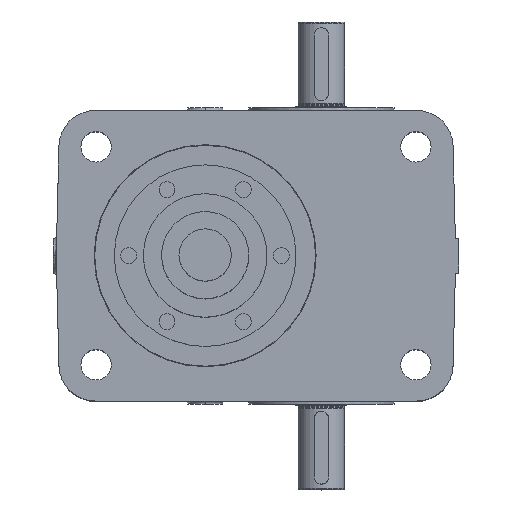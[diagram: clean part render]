
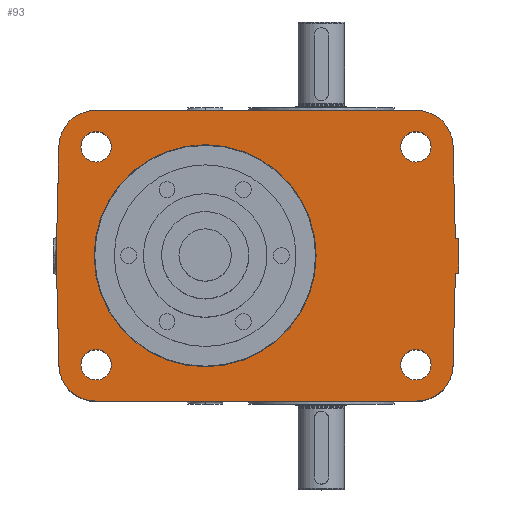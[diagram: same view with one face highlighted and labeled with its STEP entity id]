
A CAD part, top view. The second image highlights one B-rep face of the part: STEP entity #93.
In plain terms, the highlighted planar face has unit normal (0, 0, 1).
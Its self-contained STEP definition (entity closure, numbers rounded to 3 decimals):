
#93=ADVANCED_FACE('',(#508,#509,#510,#511,#512,#513),#514,.T.);
#508=FACE_OUTER_BOUND('',#1719,.T.);
#509=FACE_BOUND('',#1720,.T.);
#510=FACE_BOUND('',#1721,.T.);
#511=FACE_BOUND('',#1722,.T.);
#512=FACE_BOUND('',#1723,.T.);
#513=FACE_BOUND('',#1724,.T.);
#514=PLANE('',#1725);
#1719=EDGE_LOOP('',(#4758,#4759,#4760,#4761,#4762,#4763,#4764,#4765,#4766,#4767,#4768,#4769,#4770));
#1720=EDGE_LOOP('',(#4771,#4772));
#1721=EDGE_LOOP('',(#4773,#4774));
#1722=EDGE_LOOP('',(#4775,#4776));
#1723=EDGE_LOOP('',(#4777,#4778));
#1724=EDGE_LOOP('',(#4779,#4780));
#1725=AXIS2_PLACEMENT_3D('',#4781,#4782,#4783);
#4758=ORIENTED_EDGE('',*,*,#7506,.F.);
#4759=ORIENTED_EDGE('',*,*,#7507,.F.);
#4760=ORIENTED_EDGE('',*,*,#7508,.T.);
#4761=ORIENTED_EDGE('',*,*,#7509,.T.);
#4762=ORIENTED_EDGE('',*,*,#7510,.T.);
#4763=ORIENTED_EDGE('',*,*,#7511,.T.);
#4764=ORIENTED_EDGE('',*,*,#7512,.T.);
#4765=ORIENTED_EDGE('',*,*,#7513,.T.);
#4766=ORIENTED_EDGE('',*,*,#7514,.T.);
#4767=ORIENTED_EDGE('',*,*,#7515,.F.);
#4768=ORIENTED_EDGE('',*,*,#7516,.T.);
#4769=ORIENTED_EDGE('',*,*,#7485,.T.);
#4770=ORIENTED_EDGE('',*,*,#7502,.T.);
#4771=ORIENTED_EDGE('',*,*,#7517,.T.);
#4772=ORIENTED_EDGE('',*,*,#7518,.T.);
#4773=ORIENTED_EDGE('',*,*,#7519,.T.);
#4774=ORIENTED_EDGE('',*,*,#7520,.T.);
#4775=ORIENTED_EDGE('',*,*,#7521,.T.);
#4776=ORIENTED_EDGE('',*,*,#7522,.T.);
#4777=ORIENTED_EDGE('',*,*,#7523,.T.);
#4778=ORIENTED_EDGE('',*,*,#7524,.T.);
#4779=ORIENTED_EDGE('',*,*,#7525,.T.);
#4780=ORIENTED_EDGE('',*,*,#7526,.T.);
#4781=CARTESIAN_POINT('',(35.0,0.,200.0));
#4782=DIRECTION('',(0.0,0.0,1.0));
#4783=DIRECTION('',(1.0,0.0,0.0));
#7485=EDGE_CURVE('',#8525,#8523,#8526,.T.);
#7502=EDGE_CURVE('',#8523,#8555,#8557,.T.);
#7506=EDGE_CURVE('',#8563,#8555,#8564,.T.);
#7507=EDGE_CURVE('',#8565,#8563,#8566,.T.);
#7508=EDGE_CURVE('',#8565,#8567,#8568,.T.);
#7509=EDGE_CURVE('',#8567,#8569,#8570,.T.);
#7510=EDGE_CURVE('',#8569,#8571,#8572,.T.);
#7511=EDGE_CURVE('',#8571,#8573,#8574,.T.);
#7512=EDGE_CURVE('',#8573,#8575,#8576,.T.);
#7513=EDGE_CURVE('',#8575,#8577,#8578,.T.);
#7514=EDGE_CURVE('',#8577,#8579,#8580,.T.);
#7515=EDGE_CURVE('',#8581,#8579,#8582,.T.);
#7516=EDGE_CURVE('',#8581,#8525,#8583,.T.);
#7517=EDGE_CURVE('',#8584,#8585,#8586,.T.);
#7518=EDGE_CURVE('',#8585,#8584,#8587,.T.);
#7519=EDGE_CURVE('',#8588,#8589,#8590,.T.);
#7520=EDGE_CURVE('',#8589,#8588,#8591,.T.);
#7521=EDGE_CURVE('',#8592,#8593,#8594,.T.);
#7522=EDGE_CURVE('',#8593,#8592,#8595,.T.);
#7523=EDGE_CURVE('',#8596,#8597,#8598,.T.);
#7524=EDGE_CURVE('',#8597,#8596,#8599,.T.);
#7525=EDGE_CURVE('',#8600,#8601,#8602,.T.);
#7526=EDGE_CURVE('',#8601,#8600,#8603,.T.);
#8523=VERTEX_POINT('',#11092);
#8525=VERTEX_POINT('',#11095);
#8526=LINE('',#11096,#11097);
#8555=VERTEX_POINT('',#11159);
#8557=LINE('',#11162,#11163);
#8563=VERTEX_POINT('',#11245);
#8564=CIRCLE('',#11246,25.0);
#8565=VERTEX_POINT('',#11247);
#8566=LINE('',#11248,#11249);
#8567=VERTEX_POINT('',#11250);
#8568=CIRCLE('',#11251,25.0);
#8569=VERTEX_POINT('',#11252);
#8570=LINE('',#11253,#11254);
#8571=VERTEX_POINT('',#11255);
#8572=LINE('',#11256,#11257);
#8573=VERTEX_POINT('',#11258);
#8574=LINE('',#11259,#11260);
#8575=VERTEX_POINT('',#11261);
#8576=LINE('',#11262,#11263);
#8577=VERTEX_POINT('',#11264);
#8578=LINE('',#11265,#11266);
#8579=VERTEX_POINT('',#11267);
#8580=CIRCLE('',#11268,25.0);
#8581=VERTEX_POINT('',#11269);
#8582=LINE('',#11270,#11271);
#8583=CIRCLE('',#11272,25.0);
#8584=VERTEX_POINT('',#11273);
#8585=VERTEX_POINT('',#11274);
#8586=CIRCLE('',#11275,10.5);
#8587=CIRCLE('',#11276,10.5);
#8588=VERTEX_POINT('',#11277);
#8589=VERTEX_POINT('',#11278);
#8590=CIRCLE('',#11279,10.5);
#8591=CIRCLE('',#11280,10.5);
#8592=VERTEX_POINT('',#11281);
#8593=VERTEX_POINT('',#11282);
#8594=CIRCLE('',#11283,10.5);
#8595=CIRCLE('',#11284,10.5);
#8596=VERTEX_POINT('',#11285);
#8597=VERTEX_POINT('',#11286);
#8598=CIRCLE('',#11287,10.5);
#8599=CIRCLE('',#11288,10.5);
#8600=VERTEX_POINT('',#11289);
#8601=VERTEX_POINT('',#11290);
#8602=CIRCLE('',#11291,76.402);
#8603=CIRCLE('',#11292,76.402);
#11092=CARTESIAN_POINT('',(-102.5,0.,200.0));
#11095=CARTESIAN_POINT('',(-100.609,75.625,200.0));
#11096=CARTESIAN_POINT('',(-100.0,100.0,200.0));
#11097=VECTOR('',#16438,1000.0);
#11159=CARTESIAN_POINT('',(-100.609,-75.625,200.0));
#11162=CARTESIAN_POINT('',(-102.5,0.0,200.0));
#11163=VECTOR('',#16453,1000.0);
#11245=CARTESIAN_POINT('',(-75.617,-100.0,200.0));
#11246=AXIS2_PLACEMENT_3D('',#16454,#16455,#16456);
#11247=CARTESIAN_POINT('',(145.617,-100.0,200.0));
#11248=CARTESIAN_POINT('',(172.5,-100.0,200.0));
#11249=VECTOR('',#16457,1000.0);
#11250=CARTESIAN_POINT('',(170.609,-75.625,200.0));
#11251=AXIS2_PLACEMENT_3D('',#16458,#16459,#16460);
#11252=CARTESIAN_POINT('',(172.2,-12.0,200.0));
#11253=CARTESIAN_POINT('',(170.609,-75.625,200.0));
#11254=VECTOR('',#16461,1000.0);
#11255=CARTESIAN_POINT('',(174.5,-12.0,200.0));
#11256=CARTESIAN_POINT('',(35.0,-12.0,200.0));
#11257=VECTOR('',#16462,1000.0);
#11258=CARTESIAN_POINT('',(174.5,12.0,200.0));
#11259=CARTESIAN_POINT('',(174.5,0.,200.0));
#11260=VECTOR('',#16463,1000.0);
#11261=CARTESIAN_POINT('',(172.2,12.0,200.0));
#11262=CARTESIAN_POINT('',(35.0,12.0,200.0));
#11263=VECTOR('',#16464,1000.0);
#11264=CARTESIAN_POINT('',(170.609,75.625,200.0));
#11265=CARTESIAN_POINT('',(172.2,12.0,200.0));
#11266=VECTOR('',#16465,1000.0);
#11267=CARTESIAN_POINT('',(145.617,100.0,200.0));
#11268=AXIS2_PLACEMENT_3D('',#16466,#16467,#16468);
#11269=CARTESIAN_POINT('',(-75.617,100.0,200.0));
#11270=CARTESIAN_POINT('',(-102.5,100.0,200.0));
#11271=VECTOR('',#16469,1000.0);
#11272=AXIS2_PLACEMENT_3D('',#16470,#16471,#16472);
#11273=CARTESIAN_POINT('',(-85.5,75.0,200.0));
#11274=CARTESIAN_POINT('',(-64.5,75.0,200.0));
#11275=AXIS2_PLACEMENT_3D('',#16473,#16474,#16475);
#11276=AXIS2_PLACEMENT_3D('',#16476,#16477,#16478);
#11277=CARTESIAN_POINT('',(134.5,75.0,200.0));
#11278=CARTESIAN_POINT('',(155.5,75.0,200.0));
#11279=AXIS2_PLACEMENT_3D('',#16479,#16480,#16481);
#11280=AXIS2_PLACEMENT_3D('',#16482,#16483,#16484);
#11281=CARTESIAN_POINT('',(134.5,-75.0,200.0));
#11282=CARTESIAN_POINT('',(155.5,-75.0,200.0));
#11283=AXIS2_PLACEMENT_3D('',#16485,#16486,#16487);
#11284=AXIS2_PLACEMENT_3D('',#16488,#16489,#16490);
#11285=CARTESIAN_POINT('',(-85.5,-75.0,200.0));
#11286=CARTESIAN_POINT('',(-64.5,-75.0,200.0));
#11287=AXIS2_PLACEMENT_3D('',#16491,#16492,#16493);
#11288=AXIS2_PLACEMENT_3D('',#16494,#16495,#16496);
#11289=CARTESIAN_POINT('',(76.402,0.0,200.0));
#11290=CARTESIAN_POINT('',(-76.402,0.,200.0));
#11291=AXIS2_PLACEMENT_3D('',#16497,#16498,#16499);
#11292=AXIS2_PLACEMENT_3D('',#16500,#16501,#16502);
#16438=DIRECTION('',(-0.025,-1.,-0.0));
#16453=DIRECTION('',(0.025,-1.,-0.0));
#16454=CARTESIAN_POINT('',(-75.617,-75.0,200.0));
#16455=DIRECTION('',(0.0,0.0,-1.0));
#16456=DIRECTION('',(-1.0,0.0,0.0));
#16457=DIRECTION('',(-1.0,-0.0,-0.0));
#16458=CARTESIAN_POINT('',(145.617,-75.0,200.0));
#16459=DIRECTION('',(0.0,0.0,1.0));
#16460=DIRECTION('',(1.0,0.0,0.0));
#16461=DIRECTION('',(0.025,1.,0.0));
#16462=DIRECTION('',(1.0,0.0,-0.0));
#16463=DIRECTION('',(-0.0,1.0,0.0));
#16464=DIRECTION('',(-1.0,-0.0,0.0));
#16465=DIRECTION('',(-0.025,1.,0.0));
#16466=CARTESIAN_POINT('',(145.617,75.0,200.0));
#16467=DIRECTION('',(0.0,0.0,1.0));
#16468=DIRECTION('',(-1.0,0.0,0.0));
#16469=DIRECTION('',(1.0,0.,-0.0));
#16470=CARTESIAN_POINT('',(-75.617,75.0,200.0));
#16471=DIRECTION('',(0.0,0.0,1.0));
#16472=DIRECTION('',(1.0,0.0,0.0));
#16473=CARTESIAN_POINT('',(-75.0,75.0,200.0));
#16474=DIRECTION('',(0.0,0.0,-1.0));
#16475=DIRECTION('',(-1.0,0.0,0.0));
#16476=CARTESIAN_POINT('',(-75.0,75.0,200.0));
#16477=DIRECTION('',(0.0,0.0,-1.0));
#16478=DIRECTION('',(-1.0,0.0,0.0));
#16479=CARTESIAN_POINT('',(145.0,75.0,200.0));
#16480=DIRECTION('',(0.0,0.0,-1.0));
#16481=DIRECTION('',(-1.0,0.0,0.0));
#16482=CARTESIAN_POINT('',(145.0,75.0,200.0));
#16483=DIRECTION('',(0.0,0.0,-1.0));
#16484=DIRECTION('',(-1.0,0.0,0.0));
#16485=CARTESIAN_POINT('',(145.0,-75.0,200.0));
#16486=DIRECTION('',(0.0,0.0,-1.0));
#16487=DIRECTION('',(-1.0,0.0,0.0));
#16488=CARTESIAN_POINT('',(145.0,-75.0,200.0));
#16489=DIRECTION('',(0.0,0.0,-1.0));
#16490=DIRECTION('',(-1.0,0.0,0.0));
#16491=CARTESIAN_POINT('',(-75.0,-75.0,200.0));
#16492=DIRECTION('',(0.0,0.0,-1.0));
#16493=DIRECTION('',(-1.0,0.0,0.0));
#16494=CARTESIAN_POINT('',(-75.0,-75.0,200.0));
#16495=DIRECTION('',(0.0,0.0,-1.0));
#16496=DIRECTION('',(-1.0,0.0,0.0));
#16497=CARTESIAN_POINT('',(0.0,0.0,200.0));
#16498=DIRECTION('',(0.0,0.0,-1.0));
#16499=DIRECTION('',(1.0,0.0,0.0));
#16500=CARTESIAN_POINT('',(0.0,0.0,200.0));
#16501=DIRECTION('',(0.0,0.0,-1.0));
#16502=DIRECTION('',(1.0,0.0,0.0));
